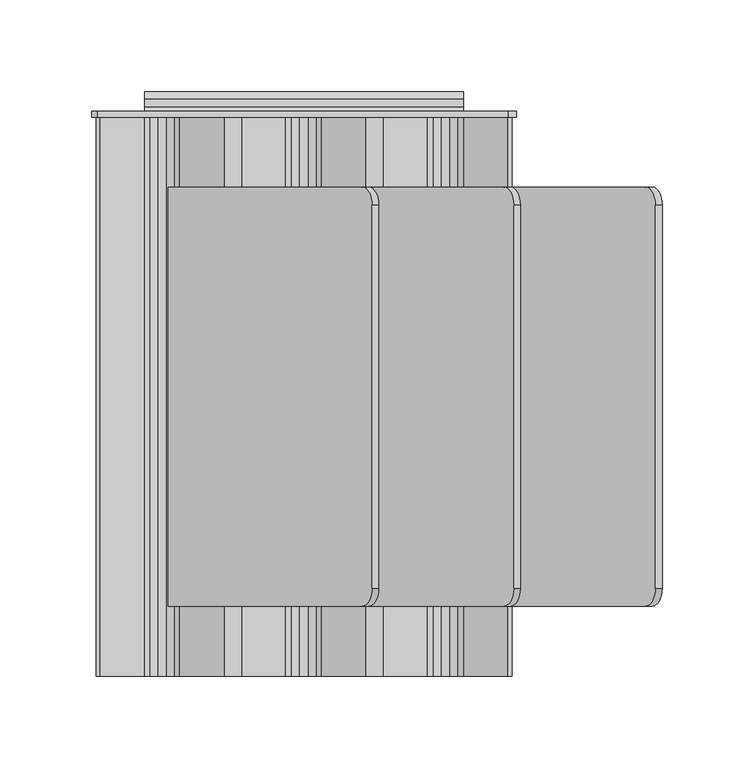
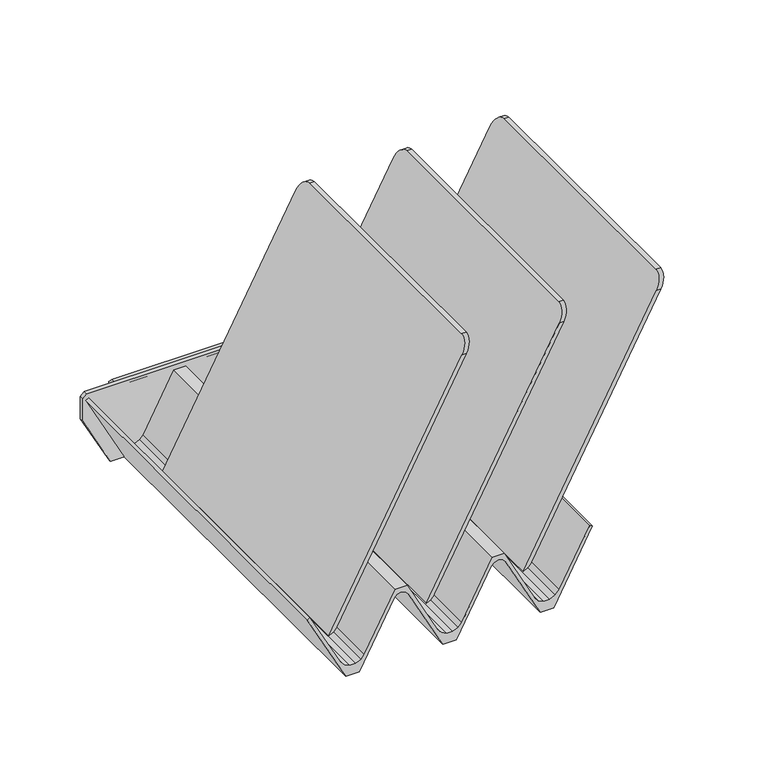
"""IFC4 building model written with IfcOpenShell, lengths in millimetres: furniture geometry."""

from ifc_helpers import new_model, si_unit, point, frame, frame_2d, origin, place, context, project, spatial, polyline, circle_curve, ellipse_curve, trimmed, segment, composite_curve, outline, extrude, source, transform, mapped, element, save
from ifc_brep_helpers import plane_surface, cylinder_surface, advanced_brep


def furniture_31138a8b(model_context):
    return source(origin(), model_context, "Body", "SolidModel", [
        advanced_brep(
        [(-78.5076305, -115.8875182, 812.93716), (-74.9117341, -115.8875182, 812.93716), (35.3237269, -115.8875182, 1020.2599034), (31.7278836, -115.8875182, 1020.2599034), (-74.9117341, 112.7124864, 812.93716), (-78.5076305, 112.7124864, 812.93716), (31.7278836, 112.7124864, 1020.2599034), (35.3237269, 112.7124864, 1020.2599034), (40.728424, 102.8883555, 1030.42466), (40.728424, -105.9830355, 1030.42466), (37.1325833, 102.8883555, 1030.42466), (37.1325833, -105.9830355, 1030.42466)],
        [
            (0, 1),
            (1, 2),
            (2, 3),
            (3, 0),
            (4, 5),
            (5, 6),
            (6, 7),
            (7, 4),
            (0, 5),
            (4, 1),
            (7, 8, ellipse_curve(frame((35.3237269, 102.5418246, 1020.2599034), z_axis=(0.8829475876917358, 0.0, -0.46947157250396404), x_axis=(-0.4694715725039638, 0.0, -0.8829475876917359)), 11.518987, 10.1706618)),
            (8, 9),
            (9, 2, ellipse_curve(frame((35.3237269, -105.7193418, 1020.2599034), z_axis=(0.8829475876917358, 0.0, -0.46947157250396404), x_axis=(-0.4694715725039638, 0.0, -0.8829475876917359)), 11.5161721, 10.1681764)),
            (8, 10),
            (10, 11),
            (11, 9),
            (3, 11, ellipse_curve(frame((31.7278836, -105.7193418, 1020.2599034), z_axis=(-0.8829474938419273, 0.0, 0.46947174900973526), x_axis=(-0.4694717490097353, 0.0, -0.8829474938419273)), 11.5161734, 10.1681764)),
            (10, 6, ellipse_curve(frame((31.7278836, 102.5418246, 1020.2599034), z_axis=(-0.8829474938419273, 0.0, 0.46947174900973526), x_axis=(-0.4694717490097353, 0.0, -0.8829474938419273)), 11.5189882, 10.1706618)),
        ],
        [
            plane_surface(frame((-78.5076305, -115.8875182, 812.93716), z_axis=(0.0, -1.0, 0.0), x_axis=(1.0, 0.0, 0.0))),
            plane_surface(frame((-78.5076305, 112.7124864, 812.93716), z_axis=(0.0, 1.0, 0.0), x_axis=(-1.0, 0.0, 0.0))),
            plane_surface(frame((-78.5076305, -115.8875182, 812.93716), z_axis=(0.0, 0.0, -1.0), x_axis=(0.0, 1.0, 0.0))),
            plane_surface(frame((-74.9117341, -115.8875182, 812.93716), z_axis=(0.8829475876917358, 0.0, -0.46947157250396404), x_axis=(0.0, 1.0, 0.0))),
            plane_surface(frame((40.728424, -115.8875182, 1030.42466), z_axis=(0.0, 0.0, 1.0), x_axis=(0.0, 1.0, 0.0))),
            plane_surface(frame((37.1325833, -115.8875182, 1030.42466), z_axis=(-0.8829474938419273, 0.0, 0.46947174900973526), x_axis=(0.0, 1.0, 0.0))),
            cylinder_surface(frame((0.0, 102.5418246, 1020.2599034), z_axis=(-1.0, 0.0, 0.0), x_axis=(0.0, 1.0, 0.0)), 10.1706618),
            cylinder_surface(frame((0.0, -105.7193418, 1020.2599034), z_axis=(-1.0, 0.0, 0.0), x_axis=(0.0, 1.0, 0.0)), 10.1681764),
        ],
        [
            (0, [[1, 2, 3, 4]]),
            (1, [[5, 6, 7, 8]]),
            (2, [[-1, 9, -5, 10]]),
            (3, [[-10, -8, 11, 12, 13, -2]]),
            (4, [[-12, 14, 15, 16]]),
            (5, [[-9, -4, 17, -15, 18, -6]]),
            (6, [[-7, -18, -14, -11]]),
            (7, [[-3, -13, -16, -17]]),
        ],
    ),
        advanced_brep(
        [(-0.9107932, -115.8875182, 812.93716), (2.3550823, -115.8875182, 812.93716), (112.5905464, -115.8875182, 1020.2599034), (109.0097063, -115.8875182, 1020.2599034), (2.3550823, 112.7124864, 812.93716), (-0.9107932, 112.7124864, 812.93716), (109.0097063, 112.7124864, 1020.2599034), (112.5905464, 112.7124864, 1020.2599034), (117.9952436, 102.8883555, 1030.42466), (117.9952436, -105.9830355, 1030.42466), (114.3989613, 102.8883555, 1030.42466), (114.3989613, -105.9830355, 1030.42466)],
        [
            (0, 1),
            (1, 2),
            (2, 3),
            (3, 0),
            (4, 5),
            (5, 6),
            (6, 7),
            (7, 4),
            (0, 5),
            (4, 1),
            (7, 8, ellipse_curve(frame((112.5905464, 102.5418246, 1020.2599034), z_axis=(0.882947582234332, 0.0, -0.46947158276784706), x_axis=(-0.46947158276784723, 0.0, -0.882947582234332)), 11.518987, 10.1706618)),
            (8, 9),
            (9, 2, ellipse_curve(frame((112.5905464, -105.7193418, 1020.2599034), z_axis=(0.882947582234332, 0.0, -0.46947158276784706), x_axis=(-0.46947158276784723, 0.0, -0.882947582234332)), 11.5161722, 10.1681764)),
            (8, 10),
            (10, 11),
            (11, 9),
            (3, 11, ellipse_curve(frame((109.0097063, -105.7193418, 1020.2599034), z_axis=(-0.88350333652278, 0.0, 0.4684248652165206), x_axis=(-0.46842486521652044, 0.0, -0.8835033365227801)), 11.5089281, 10.1681764)),
            (10, 6, ellipse_curve(frame((109.0097063, 102.5418246, 1020.2599034), z_axis=(-0.88350333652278, 0.0, 0.4684248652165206), x_axis=(-0.46842486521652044, 0.0, -0.8835033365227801)), 11.5117412, 10.1706618)),
        ],
        [
            plane_surface(frame((-78.5076305, -115.8875182, 812.93716), z_axis=(0.0, -1.0, 0.0), x_axis=(1.0, 0.0, 0.0))),
            plane_surface(frame((-78.5076305, 112.7124864, 812.93716), z_axis=(0.0, 1.0, 0.0), x_axis=(-1.0, 0.0, 0.0))),
            plane_surface(frame((-0.9107932, -115.8875182, 812.93716), z_axis=(0.0, 0.0, -1.0), x_axis=(0.0, 1.0, 0.0))),
            plane_surface(frame((2.3550823, -115.8875182, 812.93716), z_axis=(0.882947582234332, 0.0, -0.46947158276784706), x_axis=(0.0, 1.0, 0.0))),
            plane_surface(frame((117.9952436, -115.8875182, 1030.42466), z_axis=(0.0, 0.0, 1.0), x_axis=(0.0, 1.0, 0.0))),
            plane_surface(frame((114.3989613, -115.8875182, 1030.42466), z_axis=(-0.88350333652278, 0.0, 0.4684248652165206), x_axis=(0.0, 1.0, 0.0))),
            cylinder_surface(frame((0.0, 102.5418246, 1020.2599034), z_axis=(-1.0, 0.0, 0.0), x_axis=(0.0, 1.0, 0.0)), 10.1706618),
            cylinder_surface(frame((0.0, -105.7193418, 1020.2599034), z_axis=(-1.0, 0.0, 0.0), x_axis=(0.0, 1.0, 0.0)), 10.1681764),
        ],
        [
            (0, [[1, 2, 3, 4]]),
            (1, [[5, 6, 7, 8]]),
            (2, [[-1, 9, -5, 10]]),
            (3, [[-10, -8, 11, 12, 13, -2]]),
            (4, [[-12, 14, 15, 16]]),
            (5, [[-9, -4, 17, -15, 18, -6]]),
            (6, [[-7, -18, -14, -11]]),
            (7, [[-3, -13, -16, -17]]),
        ],
    ),
        advanced_brep(
        [(76.0259689, -115.8875182, 812.93716), (79.7811739, -115.8875182, 812.93716), (190.0166176, -115.8875182, 1020.2599034), (186.2614289, -115.8875182, 1020.2599034), (79.7811739, 112.7124864, 812.93716), (76.0259689, 112.7124864, 812.93716), (186.2614289, 112.7124864, 1020.2599034), (190.0166176, 112.7124864, 1020.2599034), (195.4213139, 102.8883555, 1030.42466), (195.4213139, -105.9830355, 1030.42466), (191.666126, 102.8883555, 1030.42466), (191.666126, -105.9830355, 1030.42466)],
        [
            (0, 1),
            (1, 2),
            (2, 3),
            (3, 0),
            (4, 5),
            (5, 6),
            (6, 7),
            (7, 4),
            (0, 5),
            (4, 1),
            (7, 8, ellipse_curve(frame((190.0166176, 102.5418246, 1020.2599034), z_axis=(0.8829476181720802, 0.0, -0.4694715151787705), x_axis=(-0.46947151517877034, 0.0, -0.8829476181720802)), 11.5189866, 10.1706618)),
            (8, 9),
            (9, 2, ellipse_curve(frame((190.0166176, -105.7193418, 1020.2599034), z_axis=(0.8829476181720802, 0.0, -0.4694715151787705), x_axis=(-0.46947151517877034, 0.0, -0.8829476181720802)), 11.5161717, 10.1681764)),
            (8, 10),
            (10, 11),
            (11, 9),
            (3, 11, ellipse_curve(frame((186.2614289, -105.7193418, 1020.2599034), z_axis=(-0.882947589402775, 0.0, 0.46947156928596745), x_axis=(-0.46947156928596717, 0.0, -0.882947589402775)), 11.5161721, 10.1681764)),
            (10, 6, ellipse_curve(frame((186.2614289, 102.5418246, 1020.2599034), z_axis=(-0.882947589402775, 0.0, 0.46947156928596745), x_axis=(-0.46947156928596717, 0.0, -0.882947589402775)), 11.5189869, 10.1706618)),
        ],
        [
            plane_surface(frame((-78.5076305, -115.8875182, 812.93716), z_axis=(0.0, -1.0, 0.0), x_axis=(1.0, 0.0, 0.0))),
            plane_surface(frame((-78.5076305, 112.7124864, 812.93716), z_axis=(0.0, 1.0, 0.0), x_axis=(-1.0, 0.0, 0.0))),
            plane_surface(frame((76.0259689, -115.8875182, 812.93716), z_axis=(0.0, 0.0, -1.0), x_axis=(0.0, 1.0, 0.0))),
            plane_surface(frame((79.7811739, -115.8875182, 812.93716), z_axis=(0.8829476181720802, 0.0, -0.4694715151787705), x_axis=(0.0, 1.0, 0.0))),
            plane_surface(frame((195.4213139, -115.8875182, 1030.42466), z_axis=(0.0, 0.0, 1.0), x_axis=(0.0, 1.0, 0.0))),
            plane_surface(frame((191.666126, -115.8875182, 1030.42466), z_axis=(-0.882947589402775, 0.0, 0.46947156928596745), x_axis=(0.0, 1.0, 0.0))),
            cylinder_surface(frame((0.0, 102.5418246, 1020.2599034), z_axis=(-1.0, 0.0, 0.0), x_axis=(0.0, 1.0, 0.0)), 10.1706618),
            cylinder_surface(frame((0.0, -105.7193418, 1020.2599034), z_axis=(-1.0, 0.0, 0.0), x_axis=(0.0, 1.0, 0.0)), 10.1681764),
        ],
        [
            (0, [[1, 2, 3, 4]]),
            (1, [[5, 6, 7, 8]]),
            (2, [[-1, 9, -5, 10]]),
            (3, [[-10, -8, 11, 12, 13, -2]]),
            (4, [[-12, 14, 15, 16]]),
            (5, [[-9, -4, 17, -15, 18, -6]]),
            (6, [[-7, -18, -14, -11]]),
            (7, [[-3, -13, -16, -17]]),
        ],
    ),
        extrude(outline(polyline([(871.1237104, -113.3404132), (812.93716, -82.6180755), (812.93716, -71.8286766), (865.4612223, -44.096121), (867.7278031, -41.9545616), (868.6395362, -38.676187), (867.7278031, -35.3978079), (865.2544171, -33.0608503), (812.93716, -5.4374818), (812.93716, 5.4381185), (865.4612214, 33.170679), (867.7278031, 35.3122394), (868.6395362, 38.5906094), (867.7278031, 41.8689885), (865.1985959, 44.2586883), (812.93716, 71.9155202), (812.93716, 82.7049229), (871.123706, 113.4272483), (872.2400032, 111.3130508), (826.7926696, 87.1482781), (823.1373141, 84.0519156), (821.1228704, 79.7054876), (821.1228704, 74.9149551), (823.1373141, 70.5685271), (826.8976961, 67.3831993), (872.3096584, 43.2968127), (872.3096584, 33.9240014), (826.2875875, 9.4536309), (823.1373141, 6.7851111), (821.1228704, 2.4386922), (821.1228704, -2.3518493), (823.5726346, -6.6982682), (827.1321221, -9.9738698), (872.3096584, -33.8274808), (872.3096584, -43.3428158), (826.2875347, -67.8132137), (823.1373141, -70.4816887), (821.1228704, -74.8281031), (821.1228704, -79.6186492), (823.1373141, -83.9650636), (826.7926862, -87.0614424), (872.309663, -111.0942793), (871.1237104, -113.3404132)])), frame((0.0, -153.9875, 0.0), z_axis=(0.0, 1.0, 0.0), x_axis=(0.0, 0.0, 1.0)), (0.0, 0.0, 1.0), 304.7999878),
        extrude(outline(polyline([(873.2621594, -115.844077), (854.6271207, -115.844077), (812.93716, -93.8318941), (812.93716, 93.918737), (854.6271207, 115.930929), (873.2621584, 115.930929), (876.4371585, 111.5932577), (876.4371585, -112.669078), (873.2621594, -115.844077)])), frame((0.0, 150.8124878, 0.0), z_axis=(0.0, 1.0, 0.0), x_axis=(0.0, 0.0, 1.0)), (0.0, 0.0, 1.0), 3.1750122),
        extrude(outline(composite_curve([segment(polyline([(164.6784774, 869.4483714), (164.6784774, 866.8706205)]), True, "CONTINUOUS"), segment(trimmed(circle_curve(frame_2d((162.7734784, 866.8706205)), 1.904999), [point((164.6784774, 866.8706205))], [point((160.8684793, 866.8706205))], False, "CARTESIAN"), True, "CONTINUOUS"), segment(polyline([(160.8684793, 866.8706205), (160.8684793, 869.4483714), (156.5435882, 869.4483714), (153.9875, 866.8922832), (153.9875, 876.4371585), (156.5435882, 873.2583713), (160.8684775, 873.2583713), (164.6784774, 869.4483714)]), True, "CONTINUOUS")], self_intersect=False)), frame((-87.0345642, 0.0, 0.0), z_axis=(1.0, 0.0, 0.0), x_axis=(0.0, 1.0, 0.0)), (0.0, 0.0, 1.0), 174.0691284),
    ])


if __name__ == "__main__":
    model = new_model("IFC4")
    model_context = context("Model", 3, world=origin())
    ifc_project = project(units=[si_unit("LENGTHUNIT", "METRE", prefix="MILLI")], contexts=[model_context])
    site = spatial("IfcSite", under=ifc_project)
    building = spatial("IfcBuilding", under=site)
    placement = place(None, origin())
    furniture_shape = furniture_31138a8b(model_context)
    element("IfcFurniture", 1, ObjectType="HermanMiller_ThrivePortfolio_Y7218_DiagonalTray : 8 1/2\"H x 12\"D x 13\"W", at=placement, inside=building, context=model_context, shape_type="MappedRepresentation", body=[
        mapped(furniture_shape, transform((0.0, 0.0, 0.0), x_axis=(1.0, 0.0, 0.0), y_axis=(0.0, 1.0, 0.0), z_axis=(0.0, 0.0, 1.0))),
    ])
    save(model, "model.ifc")
